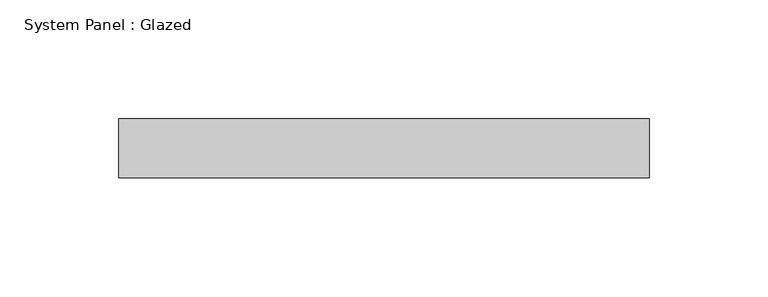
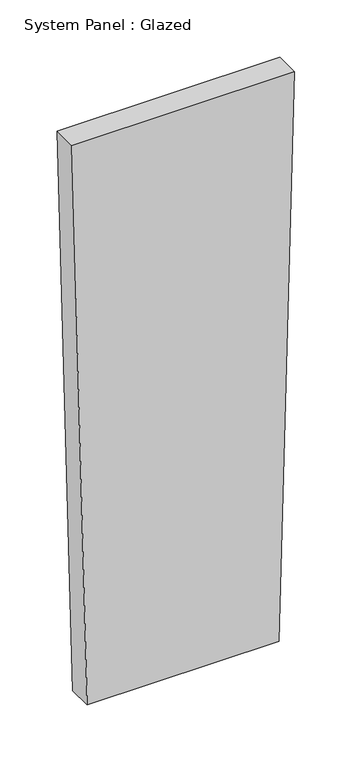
"""IFC4 building model written with IfcOpenShell, lengths in millimetres: plate geometry, System Panel : Glazed."""

from ifc_helpers import new_model, si_unit, frame, origin, place, context, project, spatial, polyline, outline, extrude, source, transform, mapped, element, save


def system_panel_glazed_7d55cdd4(model_context):
    return source(origin(), model_context, "Body", "SweptSolid", [
        extrude(outline(polyline([(0.0, -96.5844894), (0.0, 96.5844894), (599.8055752, 111.8577309), (599.8055752, -111.8577309), (0.0, -96.5844894)])), frame((0.0, 24.5, 0.0), z_axis=(0.0, 1.0, 0.0), x_axis=(0.0, 0.0, 1.0)), (0.0, 0.0, 1.0), 25.0),
    ])


if __name__ == "__main__":
    model = new_model("IFC4")
    model_context = context("Model", 3, world=origin())
    ifc_project = project(units=[si_unit("LENGTHUNIT", "METRE", prefix="MILLI")], contexts=[model_context])
    site = spatial("IfcSite", under=ifc_project)
    building = spatial("IfcBuilding", under=site)
    placement = place(None, origin())
    system_panel_glazed_shape = system_panel_glazed_7d55cdd4(model_context)
    element("IfcPlate", 1, ObjectType="System Panel : Glazed", at=placement, inside=building, context=model_context, shape_type="MappedRepresentation", body=[
        mapped(system_panel_glazed_shape, transform((0.0, 0.0, 0.0), x_axis=(1.0, 0.0, 0.0), y_axis=(0.0, 1.0, 0.0), z_axis=(0.0, 0.0, 1.0))),
    ])
    save(model, "model.ifc")
